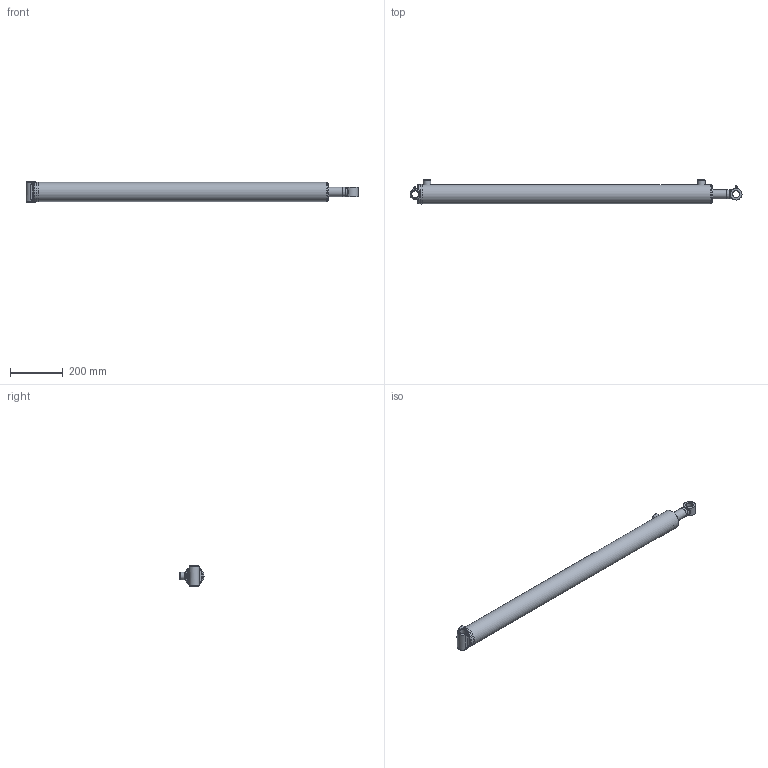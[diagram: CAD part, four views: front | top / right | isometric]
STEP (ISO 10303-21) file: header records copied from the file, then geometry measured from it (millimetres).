
FILE_DESCRIPTION(/* description */ ('Ø2.50 X 40.00 DA'),/* implementation_level */ '2;1');
FILE_NAME(/* name */ 'result.stp',/* time_stamp */ '2024-07-12T20:45:56Z',/* author */ ('AJC'),/* organization */ ('PRINCE MANUFACTURING'),/* preprocessor_version */ 'ST-DEVELOPER v20',/* originating_system */ 'Autodesk Inventor 2024',/* authorisation */ '');
FILE_SCHEMA (('AUTOMOTIVE_DESIGN { 1 0 10303 214 3 1 1 }'));
Length unit declared in the file: inch
Products named in the file (21): PC2540013A00-480XYXA; 0613-XYSF000-43237; 0513-T-43237; 161300230; 200015602; 06Weld1_C360; 0713-P-075; 220000208; 0813-G-138; 230025103; 230025003; 240000018; 240061330; 240000330; 0207A-FAW0-46250XA; 0107A-FAW0-46250; 210400812; 02Weld_C360; 240037106; 250014137; 270010020
Assembly tree (22 placements, depth 3):
  PC2540013A00-480XYXA
    0613-XYSF000-43237
      0513-T-43237
      161300230
      200015602  x2
      06Weld1_C360
    0713-P-075
    220000208
    0813-G-138
    230025103
    230025003
    240000018
    240061330
    240000330
    0207A-FAW0-46250XA
      0107A-FAW0-46250
      210400812
      02Weld_C360
    240037106
    250014137
    270010020  x2
Bounding box: 1260.91 x 91.34 x 76.2 mm (x, y, z)
Volume: 2533002.6 mm3; surface area: 718547 mm2
Topology: 25 solids, 25 shells, 554 faces, 1338 edges, 857 vertices
Faces by surface type: bspline 155, plane 140, torus 86, cone 86, cylinder 83, sphere 4
Full cylindrical faces by diameter (mm): 2.143 x4, 3.175 x1, 5.359 x2, 6.35 x2, 9.525 x2, 12.649 x1, 12.7 x1, 12.725 x1, 17.323 x3, 18.999 x1, 19.126 x1, 21.615 x1, 25.781 x2, 28.575 x2, 34.925 x1, 35.001 x2, 35.56 x2, 36.957 x1, 40.64 x1, 41.3 x1, 44.45 x1, 46.101 x2, 47.625 x2, 50.8 x2, 54.077 x2, 54.813 x2, 59.931 x2, 60.071 x1, 60.096 x4, 62.886 x2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
Entity records: 32494 total; most frequent: CARTESIAN_POINT 20016, ORIENTED_EDGE 2458, DIRECTION 2131, EDGE_CURVE 1229, AXIS2_PLACEMENT_3D 894, VERTEX_POINT 796, EDGE_LOOP 589, FACE_OUTER_BOUND 510
